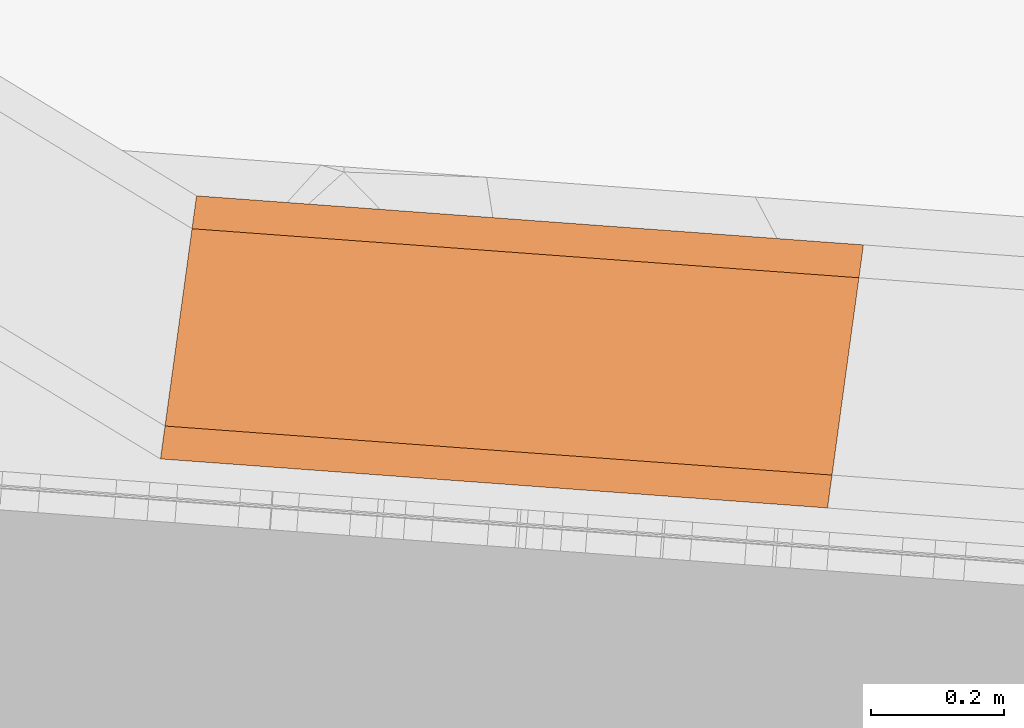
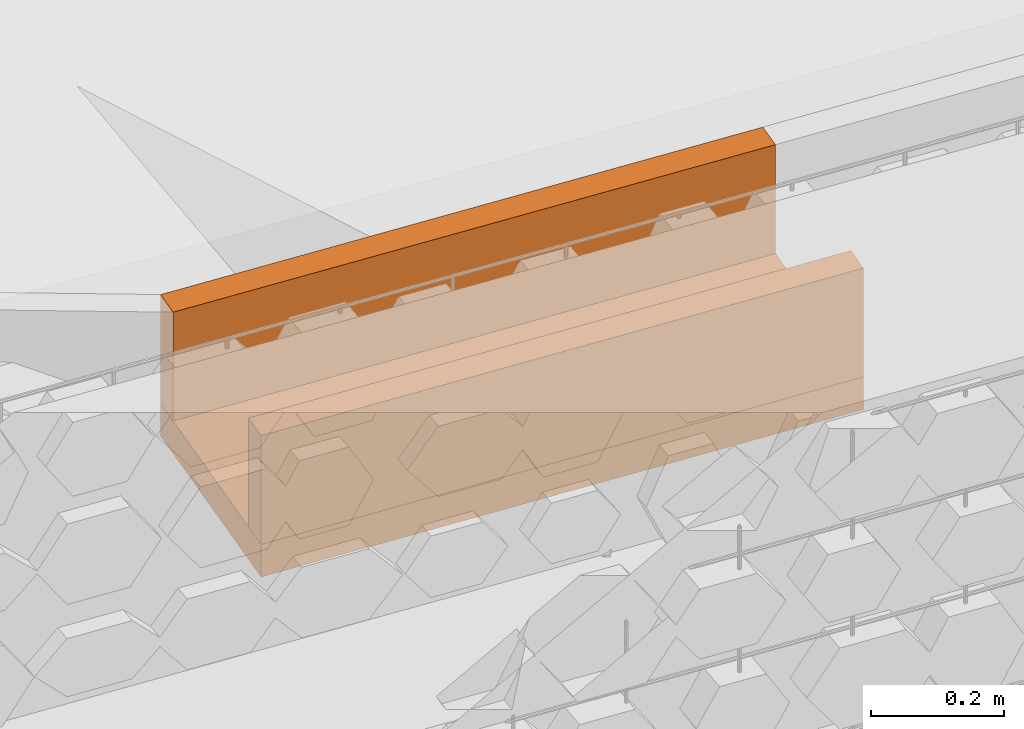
# Not in any storey, part 25 of 45: 3 proxies.
"""IFC4 model written with IfcOpenShell, lengths in metres."""

from ifc_helpers import new_model, si_unit, direction, frame, origin_with_axes, place, context, subcontext, project, spatial, polygons, material, element, save


model = new_model("IFC4")

# Units and contexts
model_context = context("Model", 3, precision=1e-05, world=origin_with_axes(), true_north=direction((0.0, 1.0)))
body_context = subcontext(model_context, "Body", "Model", "MODEL_VIEW")
ifc_project = project(units=[si_unit("VOLUMEUNIT", "CUBIC_METRE"), si_unit("LENGTHUNIT", "METRE"), si_unit("AREAUNIT", "SQUARE_METRE")], contexts=[model_context])

# Site
site_placement = place(None, origin_with_axes())
site = spatial("IfcSite", under=ifc_project, at=site_placement, Name="Lares · Rua das Mercês · artigo 4771")

# Proxies
ifc_material = material(Name="Caleiras · betão", Category="concrete")
proxy_1_placement = place(site_placement, frame((0.0, 0.0, 0.0), z_axis=(0.0, 0.0, 1.0), x_axis=(1.0, -1.03767253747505e-17, 0.0)))
element("IfcBuildingElementProxy", 1, at=proxy_1_placement, inside=site, material=ifc_material, Name="Acesso · canal lateral", ObjectType="Acesso · canal lateral", PredefinedType="USERDEFINED", context=body_context, shape_type="Tessellation", body=[
    polygons([(56.6177428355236, 2.00831751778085, 15.228), (56.6718881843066, 2.40463592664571, 15.228), (57.6765479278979, 2.33075710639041, 15.229), (57.622402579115, 1.93443869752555, 15.229), (56.6177428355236, 2.00831751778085, 15.288), (56.6718881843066, 2.40463592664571, 15.288), (57.6765479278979, 2.33075710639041, 15.289), (57.622402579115, 1.93443869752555, 15.289)], [[[4, 3, 2, 1]], [[5, 6, 7, 8]], [[1, 2, 6, 5]], [[2, 3, 7, 6]], [[3, 4, 8, 7]], [[4, 1, 5, 8]]]),
])
proxy_2_placement = place(site_placement, frame((0.0, 0.0, 0.0), z_axis=(0.0, 0.0, 1.0), x_axis=(1.0, -1.03767253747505e-17, 0.0)))
element("IfcBuildingElementProxy", 2, at=proxy_2_placement, inside=site, material=ifc_material, Name="Acesso · canal lateral", ObjectType="Acesso · canal lateral", PredefinedType="USERDEFINED", context=body_context, shape_type="Tessellation", body=[
    polygons([(56.6177428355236, 2.00831751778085, 15.288), (56.6245110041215, 2.05785731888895, 15.288), (57.6291707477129, 1.98397849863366, 15.289), (57.622402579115, 1.93443869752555, 15.289), (56.6177428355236, 2.00831751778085, 15.488), (56.6245110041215, 2.05785731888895, 15.488), (57.6291707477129, 1.98397849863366, 15.489), (57.622402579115, 1.93443869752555, 15.489)], [[[4, 3, 2, 1]], [[5, 6, 7, 8]], [[1, 2, 6, 5]], [[2, 3, 7, 6]], [[3, 4, 8, 7]], [[4, 1, 5, 8]]]),
])
proxy_3_placement = place(site_placement, frame((0.0, 0.0, 0.0), z_axis=(0.0, 0.0, 1.0), x_axis=(1.0, -1.03767253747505e-17, 0.0)))
element("IfcBuildingElementProxy", 3, at=proxy_3_placement, inside=site, material=ifc_material, Name="Acesso · canal lateral", ObjectType="Acesso · canal lateral", PredefinedType="USERDEFINED", context=body_context, shape_type="Tessellation", body=[
    polygons([(56.6651200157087, 2.3550961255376, 15.288), (56.6718881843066, 2.40463592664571, 15.288), (57.6765479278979, 2.33075710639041, 15.289), (57.6697797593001, 2.28121730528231, 15.289), (56.6651200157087, 2.3550961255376, 15.488), (56.6718881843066, 2.40463592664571, 15.488), (57.6765479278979, 2.33075710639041, 15.489), (57.6697797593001, 2.28121730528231, 15.489)], [[[4, 3, 2, 1]], [[5, 6, 7, 8]], [[1, 2, 6, 5]], [[2, 3, 7, 6]], [[3, 4, 8, 7]], [[4, 1, 5, 8]]]),
])

save(model, "model.ifc")
